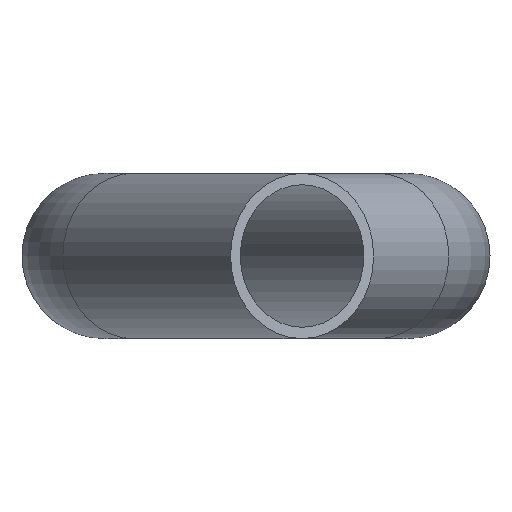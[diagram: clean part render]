
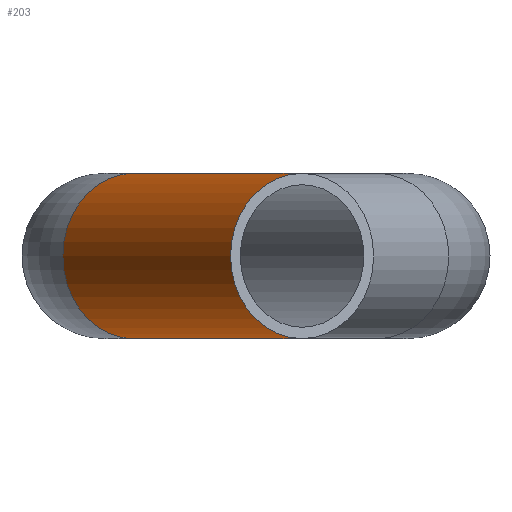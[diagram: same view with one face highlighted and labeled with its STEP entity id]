
A CAD part, left-side view. The second image highlights one B-rep face of the part: STEP entity #203.
In plain terms, the highlighted cylindrical face has radius 11 mm (diameter 22 mm), a full revolution.
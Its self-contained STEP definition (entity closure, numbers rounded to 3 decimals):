
#176=CARTESIAN_POINT('',(-153.,36.373,0.0));
#177=DIRECTION('',(-0.866,-0.5,0.0));
#178=DIRECTION('',(0.5,-0.866,0.0));
#179=AXIS2_PLACEMENT_3D('',#176,#177,#178);
#180=CYLINDRICAL_SURFACE('',#179,11.);
#181=CARTESIAN_POINT('',(-197.194,23.56,0.));
#182=VERTEX_POINT('',#181);
#183=CARTESIAN_POINT('',(-191.694,14.033,0.0));
#184=DIRECTION('',(0.866,0.5,0.0));
#185=DIRECTION('',(0.5,-0.866,0.0));
#186=AXIS2_PLACEMENT_3D('',#183,#184,#185);
#187=CIRCLE('',#186,11.);
#188=EDGE_CURVE('',#182,#182,#187,.T.);
#189=ORIENTED_EDGE('',*,*,#188,.T.);
#190=EDGE_LOOP('',(#189));
#191=FACE_OUTER_BOUND('',#190,.T.);
#192=CARTESIAN_POINT('',(-158.5,45.899,0.));
#193=VERTEX_POINT('',#192);
#194=CARTESIAN_POINT('',(-153.,36.373,0.0));
#195=DIRECTION('',(0.866,0.5,0.0));
#196=DIRECTION('',(0.5,-0.866,0.0));
#197=AXIS2_PLACEMENT_3D('',#194,#195,#196);
#198=CIRCLE('',#197,11.);
#199=EDGE_CURVE('',#193,#193,#198,.T.);
#200=ORIENTED_EDGE('',*,*,#199,.F.);
#201=EDGE_LOOP('',(#200));
#202=FACE_BOUND('',#201,.T.);
#203=ADVANCED_FACE('',(#191,#202),#180,.T.);
